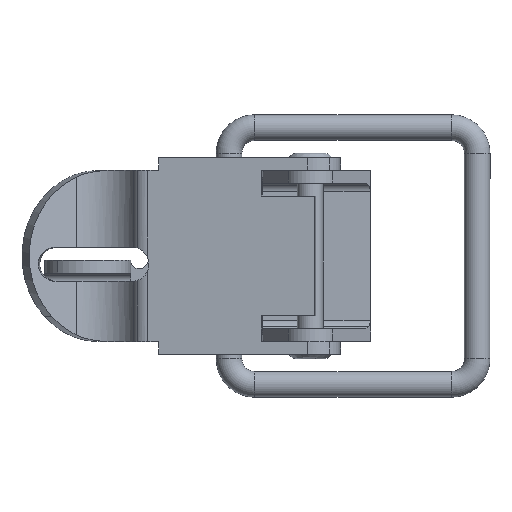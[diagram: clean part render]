
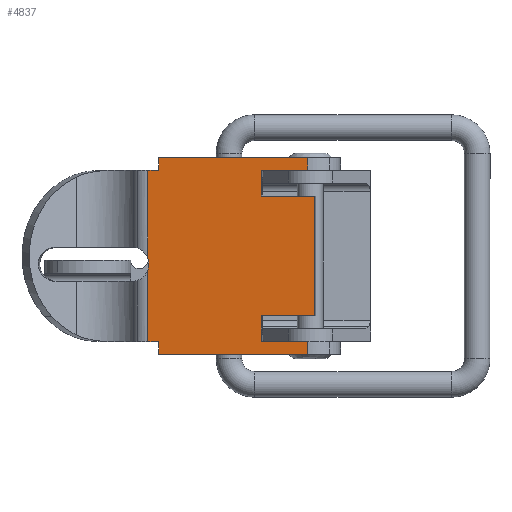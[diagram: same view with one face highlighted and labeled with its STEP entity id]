
A CAD part, top view. The second image highlights one B-rep face of the part: STEP entity #4837.
In plain terms, the highlighted planar face has unit normal (-0.083, 0, 0.997) as drawn and (0, 0, 1) by its records, which use the part's own axes.
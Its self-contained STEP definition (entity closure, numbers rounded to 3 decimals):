
#2682=CARTESIAN_POINT('',(10.48,16.281,3.994));
#2683=VERTEX_POINT('',#2682);
#2691=CARTESIAN_POINT('',(12.0,16.281,3.994));
#2692=VERTEX_POINT('',#2691);
#2693=CARTESIAN_POINT('',(10.48,16.281,3.994));
#2694=DIRECTION('',(1.0,0.0,0.0));
#2695=VECTOR('',#2694,1.52);
#2696=LINE('',#2693,#2695);
#2697=EDGE_CURVE('',#2683,#2692,#2696,.T.);
#3351=CARTESIAN_POINT('',(10.5,-1.219,3.994));
#3352=VERTEX_POINT('',#3351);
#3359=CARTESIAN_POINT('',(10.5,-2.482,3.994));
#3360=VERTEX_POINT('',#3359);
#3361=CARTESIAN_POINT('',(10.5,-2.482,3.994));
#3362=DIRECTION('',(0.0,1.0,0.0));
#3363=VECTOR('',#3362,1.264);
#3364=LINE('',#3361,#3363);
#3365=EDGE_CURVE('',#3360,#3352,#3364,.T.);
#3502=CARTESIAN_POINT('',(2.177,-2.482,3.994));
#3503=VERTEX_POINT('',#3502);
#3521=CARTESIAN_POINT('',(0.762,-2.482,3.994));
#3522=VERTEX_POINT('',#3521);
#3523=CARTESIAN_POINT('',(1.47,-4.353,3.994));
#3524=DIRECTION('',(0.0,0.0,-1.0));
#3525=DIRECTION('',(-1.0,0.0,0.0));
#3526=AXIS2_PLACEMENT_3D('',#3523,#3524,#3525);
#3527=CIRCLE('',#3526,2.0);
#3528=EDGE_CURVE('',#3522,#3503,#3527,.T.);
#3974=CARTESIAN_POINT('',(-9.5,-2.482,3.994));
#3975=VERTEX_POINT('',#3974);
#3976=CARTESIAN_POINT('',(0.762,-2.482,3.994));
#3977=DIRECTION('',(-1.0,0.0,0.0));
#3978=VECTOR('',#3977,10.262);
#3979=LINE('',#3976,#3978);
#3980=EDGE_CURVE('',#3522,#3975,#3979,.T.);
#3999=CARTESIAN_POINT('',(10.5,-2.482,3.994));
#4000=DIRECTION('',(-1.0,0.0,0.0));
#4001=VECTOR('',#4000,8.323);
#4002=LINE('',#3999,#4001);
#4003=EDGE_CURVE('',#3360,#3503,#4002,.T.);
#4162=CARTESIAN_POINT('',(10.48,10.828,3.994));
#4163=VERTEX_POINT('',#4162);
#4170=CARTESIAN_POINT('',(10.48,16.281,3.994));
#4171=DIRECTION('',(0.0,-1.0,0.0));
#4172=VECTOR('',#4171,5.453);
#4173=LINE('',#4170,#4172);
#4174=EDGE_CURVE('',#2683,#4163,#4173,.T.);
#4491=CARTESIAN_POINT('',(-11.0,-1.219,3.994));
#4492=VERTEX_POINT('',#4491);
#4499=CARTESIAN_POINT('',(-11.0,16.281,3.994));
#4500=VERTEX_POINT('',#4499);
#4501=CARTESIAN_POINT('',(-11.0,16.281,3.994));
#4502=DIRECTION('',(0.0,-1.0,0.0));
#4503=VECTOR('',#4502,17.5);
#4504=LINE('',#4501,#4503);
#4505=EDGE_CURVE('',#4500,#4492,#4504,.T.);
#4653=CARTESIAN_POINT('',(-9.5,16.281,3.994));
#4654=VERTEX_POINT('',#4653);
#4655=CARTESIAN_POINT('',(-11.0,16.281,3.994));
#4656=DIRECTION('',(1.0,0.0,0.0));
#4657=VECTOR('',#4656,1.5);
#4658=LINE('',#4655,#4657);
#4659=EDGE_CURVE('',#4500,#4654,#4658,.T.);
#4676=CARTESIAN_POINT('',(-9.5,10.828,3.994));
#4677=VERTEX_POINT('',#4676);
#4684=CARTESIAN_POINT('',(-6.5,10.828,3.994));
#4685=VERTEX_POINT('',#4684);
#4686=CARTESIAN_POINT('',(-6.5,10.828,3.994));
#4687=DIRECTION('',(-1.0,0.0,0.0));
#4688=VECTOR('',#4687,3.);
#4689=LINE('',#4686,#4688);
#4690=EDGE_CURVE('',#4685,#4677,#4689,.T.);
#4711=CARTESIAN_POINT('',(-6.5,17.103,3.994));
#4712=VERTEX_POINT('',#4711);
#4713=CARTESIAN_POINT('',(-6.5,17.103,3.994));
#4714=DIRECTION('',(0.0,-1.0,0.0));
#4715=VECTOR('',#4714,6.275);
#4716=LINE('',#4713,#4715);
#4717=EDGE_CURVE('',#4712,#4685,#4716,.T.);
#4734=CARTESIAN_POINT('',(7.48,17.103,3.994));
#4735=VERTEX_POINT('',#4734);
#4742=CARTESIAN_POINT('',(7.48,10.828,3.994));
#4743=VERTEX_POINT('',#4742);
#4744=CARTESIAN_POINT('',(7.48,10.828,3.994));
#4745=DIRECTION('',(0.0,1.0,0.0));
#4746=VECTOR('',#4745,6.275);
#4747=LINE('',#4744,#4746);
#4748=EDGE_CURVE('',#4743,#4735,#4747,.T.);
#4766=CARTESIAN_POINT('',(10.48,10.828,3.994));
#4767=DIRECTION('',(-1.0,0.0,0.0));
#4768=VECTOR('',#4767,3.0);
#4769=LINE('',#4766,#4768);
#4770=EDGE_CURVE('',#4163,#4743,#4769,.T.);
#4778=CARTESIAN_POINT('',(-9.5,-4.156,3.994));
#4779=DIRECTION('',(0.0,0.0,1.0));
#4780=DIRECTION('',(1.0,0.0,0.0));
#4781=AXIS2_PLACEMENT_3D('',#4778,#4779,#4780);
#4782=PLANE('',#4781);
#4783=ORIENTED_EDGE('',*,*,#3528,.T.);
#4784=ORIENTED_EDGE('',*,*,#4003,.F.);
#4785=ORIENTED_EDGE('',*,*,#3365,.T.);
#4786=CARTESIAN_POINT('',(12.0,-1.219,3.994));
#4787=VERTEX_POINT('',#4786);
#4788=CARTESIAN_POINT('',(10.5,-1.219,3.994));
#4789=DIRECTION('',(1.0,0.0,0.0));
#4790=VECTOR('',#4789,1.5);
#4791=LINE('',#4788,#4790);
#4792=EDGE_CURVE('',#3352,#4787,#4791,.T.);
#4793=ORIENTED_EDGE('',*,*,#4792,.T.);
#4794=CARTESIAN_POINT('',(12.0,-1.219,3.994));
#4795=DIRECTION('',(0.0,1.0,0.0));
#4796=VECTOR('',#4795,17.5);
#4797=LINE('',#4794,#4796);
#4798=EDGE_CURVE('',#4787,#2692,#4797,.T.);
#4799=ORIENTED_EDGE('',*,*,#4798,.T.);
#4800=ORIENTED_EDGE('',*,*,#2697,.F.);
#4801=ORIENTED_EDGE('',*,*,#4174,.T.);
#4802=ORIENTED_EDGE('',*,*,#4770,.T.);
#4803=ORIENTED_EDGE('',*,*,#4748,.T.);
#4804=CARTESIAN_POINT('',(-6.5,17.103,3.994));
#4805=DIRECTION('',(1.0,0.0,0.0));
#4806=VECTOR('',#4805,13.98);
#4807=LINE('',#4804,#4806);
#4808=EDGE_CURVE('',#4712,#4735,#4807,.T.);
#4809=ORIENTED_EDGE('',*,*,#4808,.F.);
#4810=ORIENTED_EDGE('',*,*,#4717,.T.);
#4811=ORIENTED_EDGE('',*,*,#4690,.T.);
#4812=CARTESIAN_POINT('',(-9.5,16.281,3.994));
#4813=DIRECTION('',(0.0,-1.0,0.0));
#4814=VECTOR('',#4813,5.453);
#4815=LINE('',#4812,#4814);
#4816=EDGE_CURVE('',#4654,#4677,#4815,.T.);
#4817=ORIENTED_EDGE('',*,*,#4816,.F.);
#4818=ORIENTED_EDGE('',*,*,#4659,.F.);
#4819=ORIENTED_EDGE('',*,*,#4505,.T.);
#4820=CARTESIAN_POINT('',(-9.5,-1.219,3.994));
#4821=VERTEX_POINT('',#4820);
#4822=CARTESIAN_POINT('',(-9.5,-1.219,3.994));
#4823=DIRECTION('',(-1.0,0.0,0.0));
#4824=VECTOR('',#4823,1.5);
#4825=LINE('',#4822,#4824);
#4826=EDGE_CURVE('',#4821,#4492,#4825,.T.);
#4827=ORIENTED_EDGE('',*,*,#4826,.F.);
#4828=CARTESIAN_POINT('',(-9.5,-2.482,3.994));
#4829=DIRECTION('',(0.0,1.0,0.0));
#4830=VECTOR('',#4829,1.264);
#4831=LINE('',#4828,#4830);
#4832=EDGE_CURVE('',#3975,#4821,#4831,.T.);
#4833=ORIENTED_EDGE('',*,*,#4832,.F.);
#4834=ORIENTED_EDGE('',*,*,#3980,.F.);
#4835=EDGE_LOOP('',(#4783,#4784,#4785,#4793,#4799,#4800,#4801,#4802,#4803,#4809,#4810,#4811,#4817,#4818,#4819,#4827,#4833,#4834));
#4836=FACE_OUTER_BOUND('',#4835,.T.);
#4837=ADVANCED_FACE('',(#4836),#4782,.T.);
